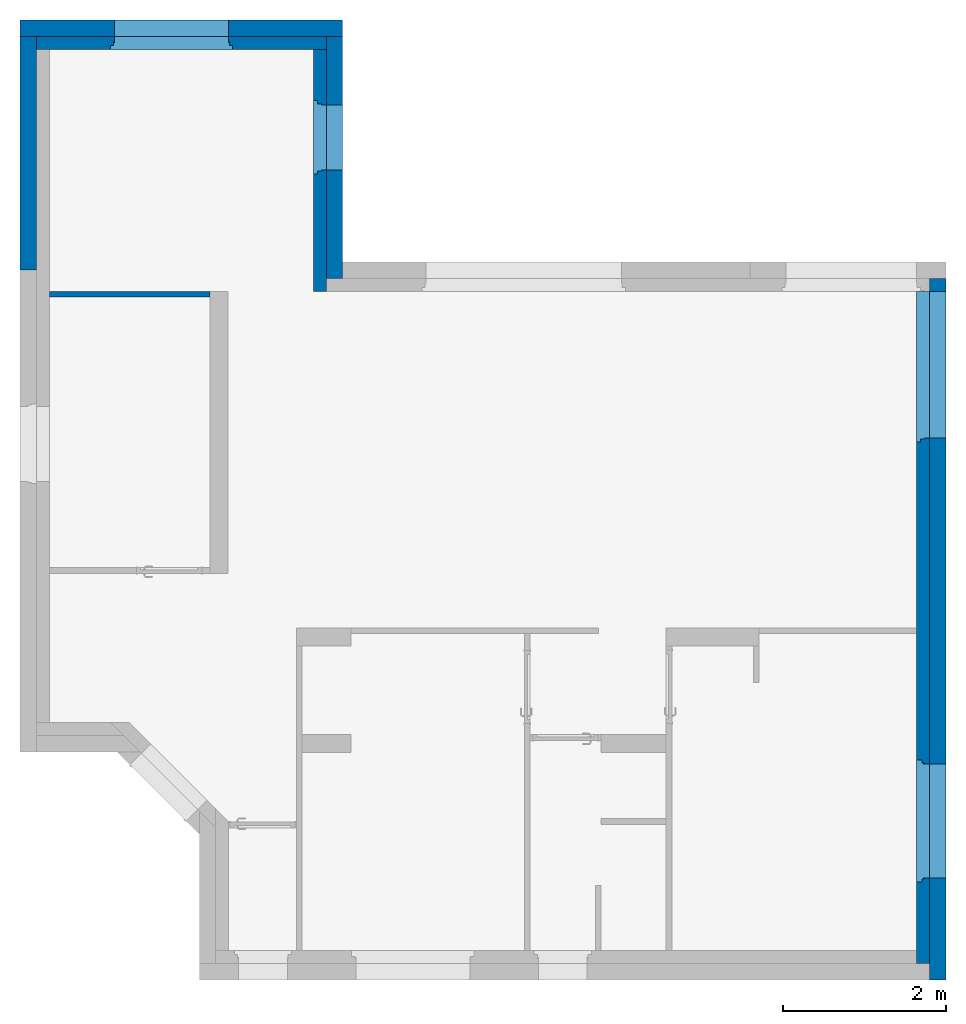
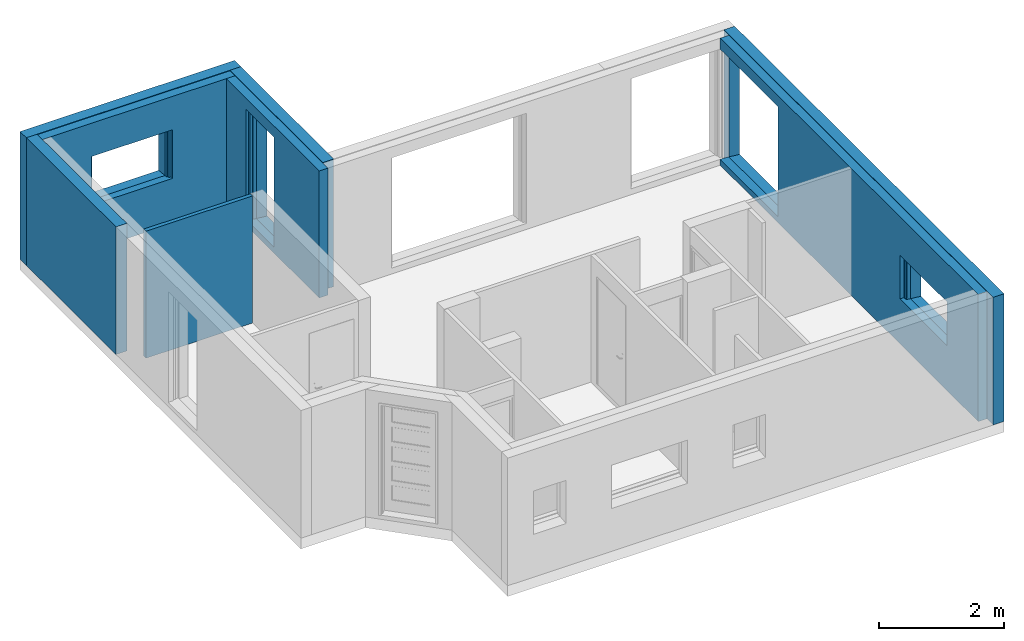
# One storey, part 5 of 8: 8 walls, 9 openings.
"""IFC2X3 building model written with IfcOpenShell, lengths in centimetres."""

from ifc_helpers import new_model, entity, si_unit, converted_unit, derived_unit, direction, frame, frame_2d, origin, place, context, subcontext, project, spatial, polyline, rectangle, extrude, clip, bounded_halfspace, faceted_brep, material, layer, layer_set, layer_usage, type_object, element, save


model = new_model("IFC2X3")

# Units and contexts
model_context = context("Model", 3, precision=0.001, world=origin(), true_north=direction((6.12303176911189e-17, 1.0)))
body_context = subcontext(model_context, "Body", "Model", "MODEL_VIEW")
ifc_project = project(units=[si_unit("LENGTHUNIT", "METRE", prefix="CENTI"), si_unit("AREAUNIT", "SQUARE_METRE"), si_unit("VOLUMEUNIT", "CUBIC_METRE"), converted_unit("PLANEANGLEUNIT", "DEGREE", entity("IfcRatioMeasure", 0.0174532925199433), si_unit("PLANEANGLEUNIT", "RADIAN"), dimensions=[0, 0, 0, 0, 0, 0, 0]), si_unit("MASSUNIT", "GRAM", prefix="KILO"), derived_unit("MASSDENSITYUNIT", [(si_unit("MASSUNIT", "GRAM", prefix="KILO"), 1), (si_unit("LENGTHUNIT", "METRE"), -3)]), derived_unit("MOMENTOFINERTIAUNIT", [(si_unit("LENGTHUNIT", "METRE"), 4)]), si_unit("TIMEUNIT", "SECOND"), si_unit("FREQUENCYUNIT", "HERTZ"), si_unit("THERMODYNAMICTEMPERATUREUNIT", "DEGREE_CELSIUS"), derived_unit("THERMALTRANSMITTANCEUNIT", [(si_unit("MASSUNIT", "GRAM", prefix="KILO"), 1), (si_unit("THERMODYNAMICTEMPERATUREUNIT", "KELVIN"), -1), (si_unit("TIMEUNIT", "SECOND"), -3)]), derived_unit("VOLUMETRICFLOWRATEUNIT", [(si_unit("LENGTHUNIT", "METRE"), 3), (si_unit("TIMEUNIT", "SECOND"), -1)]), si_unit("ELECTRICCURRENTUNIT", "AMPERE"), si_unit("ELECTRICVOLTAGEUNIT", "VOLT"), si_unit("POWERUNIT", "WATT"), si_unit("FORCEUNIT", "NEWTON", prefix="KILO"), si_unit("ILLUMINANCEUNIT", "LUX"), si_unit("LUMINOUSFLUXUNIT", "LUMEN"), si_unit("LUMINOUSINTENSITYUNIT", "CANDELA"), derived_unit("USERDEFINED", [(si_unit("MASSUNIT", "GRAM", prefix="KILO"), -1), (si_unit("LENGTHUNIT", "METRE"), -2), (si_unit("TIMEUNIT", "SECOND"), 3), (si_unit("LUMINOUSFLUXUNIT", "LUMEN"), 1)]), derived_unit("LINEARVELOCITYUNIT", [(si_unit("LENGTHUNIT", "METRE"), 1), (si_unit("TIMEUNIT", "SECOND"), -1)]), si_unit("PRESSUREUNIT", "PASCAL"), derived_unit("USERDEFINED", [(si_unit("LENGTHUNIT", "METRE"), -2), (si_unit("MASSUNIT", "GRAM", prefix="KILO"), 1), (si_unit("TIMEUNIT", "SECOND"), -2)]), derived_unit("LINEARFORCEUNIT", [(si_unit("MASSUNIT", "GRAM", prefix="KILO"), 1), (si_unit("LENGTHUNIT", "METRE"), 1), (si_unit("TIMEUNIT", "SECOND"), -2), (si_unit("LENGTHUNIT", "METRE"), -1)]), derived_unit("PLANARFORCEUNIT", [(si_unit("MASSUNIT", "GRAM", prefix="KILO"), 1), (si_unit("LENGTHUNIT", "METRE"), 1), (si_unit("TIMEUNIT", "SECOND"), -2), (si_unit("LENGTHUNIT", "METRE"), -2)])], contexts=[model_context])

# Site, building, storey
site_placement = place(None, origin())
site = spatial("IfcSite", under=ifc_project, at=site_placement, Name="Surface", CompositionType="ELEMENT")
building_placement = place(site_placement, origin())
building = spatial("IfcBuilding", under=site, at=building_placement, CompositionType="ELEMENT")
storey_placement = place(building_placement, frame((0.0, 0.0, -8.0)))
storey = spatial("IfcBuildingStorey", under=building, at=storey_placement, Name="-0.08_Dessus plancher", CompositionType="ELEMENT", Elevation=-8.0)

# Wall, opening
ifc_material_1 = material(Name="Maçonnerie - Béton")
ifc_layer_1 = layer(ifc_material_1, 20.0)
ifc_layer_set_1 = layer_set([ifc_layer_1], Name="Mur de base:Mur 20")
ifc_layer_usage_1 = layer_usage(ifc_layer_set_1, "AXIS2", "NEGATIVE", 10.0)
wall_type_1 = type_object("IfcWallType", Name="Mur de base:Mur 20", PredefinedType="STANDARD", material=ifc_layer_set_1)
wall_1_placement = place(storey_placement, frame((-1788.17726031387, 1008.99231712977, 0.0)))
wall_1 = element("IfcWallStandardCase", 1, at=wall_1_placement, inside=storey, type_object=wall_type_1, material=ifc_layer_usage_1, Name="Mur de base:Mur 20", ObjectType="Mur de base:Mur 20", context=body_context, shape_type="Clipping", body=[
    clip(extrude(rectangle(XDim=396.0, YDim=19.9999999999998, at=frame_2d((198.0, -6.21724893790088e-15), x_axis=(-1.0, 0.0))), origin(), (0.0, 0.0, 1.0), 249.0), bounded_halfspace(frame((0.0, -10.0, 249.0), z_axis=(0.0, 0.0, -1.0), x_axis=(0.0, -1.0, 0.0)), True, frame((0.0, -10.0, 249.0)), polyline([(0.0, 0.0), (20.0, 0.0), (376.0, 0.0), (396.0, 0.0), (396.0, 20.0), (0.0, 20.0), (0.0, 0.0)]))),
])
opening_1_placement = place(wall_1_placement, frame((111.0, -68.0, 81.2447882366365)))
element("IfcOpeningElement", 2, at=opening_1_placement, cuts=wall_1, Name="Mur de base:Mur 20", ObjectType="Opening", context=body_context, shape_type="Brep", body=[
    faceted_brep([(5.0, 50.0, 6.75521176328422), (5.0, 52.0, 6.75521176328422), (5.0, 52.0, 96.7552117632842), (5.0, 100.0, 96.7552117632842), (5.0, 100.0, 0.0), (5.0, 50.0, 5.25521176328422), (145.0, 0.0, 6.75521176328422), (145.0, 42.0, 6.75521176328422), (145.0, 42.0, 96.7552117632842), (145.0, 0.0, 96.7552117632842), (5.0, 0.0, 6.75521176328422), (5.0, 42.0, 6.75521176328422), (0.0, 42.0, 6.75521176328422), (0.0, 47.0, 6.75521176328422), (4.0, 47.0, 6.75521176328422), (4.0, 52.0, 6.75521176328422), (145.0, 50.0, 6.75521176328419), (145.0, 52.0, 6.75521176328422), (146.0, 52.0, 6.75521176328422), (146.0, 47.0, 6.75521176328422), (150.0, 47.0, 6.75521176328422), (150.0, 42.0, 6.75521176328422), (5.0, 0.0, 96.7552117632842), (145.0, 52.0, 96.7552117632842), (145.0, 100.0, 96.7552117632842), (145.0, 100.0, 0.0), (145.0, 50.0, 5.25521176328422), (0.0, 42.0, 101.755211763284), (0.0, 47.0, 101.755211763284), (150.0, 47.0, 101.755211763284), (146.0, 47.0, 97.7552117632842), (4.0, 47.0, 97.7552117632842), (4.0, 52.0, 97.7552117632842), (146.0, 52.0, 97.7552117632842), (5.0, 42.0, 96.7552117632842), (150.0, 42.0, 101.755211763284)], [[[0, 1, 2, 3, 4, 5]], [[6, 7, 8, 9]], [[10, 11, 12, 13, 14, 15, 1, 0, 16, 17, 18, 19, 20, 21, 7, 6]], [[10, 6, 9, 22]], [[3, 2, 23, 24]], [[3, 24, 25, 4]], [[4, 25, 26, 5]], [[5, 26, 16, 0]], [[12, 27, 28, 13]], [[13, 28, 29, 20, 19, 30, 31, 14]], [[14, 31, 32, 15]], [[15, 32, 33, 18, 17, 23, 2, 1]], [[11, 34, 8, 7, 21, 35, 27, 12]], [[27, 35, 29, 28]], [[30, 33, 32, 31]], [[29, 35, 21, 20]], [[19, 18, 33, 30]], [[9, 8, 34, 22]], [[24, 23, 17, 16, 26, 25]], [[22, 34, 11, 10]]]),
])

ifc_layer_usage_2 = layer_usage(ifc_layer_set_1, "AXIS2", "NEGATIVE", 10.0)
wall_2_placement = place(storey_placement, frame((-1402.17726031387, 998.992317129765, 0.0), z_axis=(0.0, 0.0, 1.0), x_axis=(0.0, -1.0, 0.0)))
wall_2 = element("IfcWallStandardCase", 3, at=wall_2_placement, inside=storey, type_object=wall_type_1, material=ifc_layer_usage_2, Name="Mur de base:Mur 20", ObjectType="Mur de base:Mur 20", context=body_context, shape_type="Clipping", body=[
    clip(extrude(rectangle(XDim=297.0, YDim=20.0000000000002, at=frame_2d((148.5, 0.0), x_axis=(-1.0, 0.0))), origin(), (0.0, 0.0, 1.0), 249.0), bounded_halfspace(frame((0.0, 10.0, 249.0), z_axis=(0.0, 0.0, -1.0), x_axis=(1.0, 0.0, 0.0)), True, frame((0.0, 10.0, 249.0)), polyline([(0.0, 0.0), (0.0, -20.0), (297.0, -20.0), (297.0, 0.0), (277.0, 0.0), (0.0, 0.0)]))),
])
opening_2_placement = place(wall_2_placement, frame((169.0, -68.0, 8.0)))
element("IfcOpeningElement", 4, at=opening_2_placement, cuts=wall_2, Name="Mur de base:Mur 20", ObjectType="Opening", context=body_context, shape_type="Brep", body=[
    faceted_brep([(-85.0, 50.0, 3.50000000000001), (-85.0, 52.0, 3.5), (-85.0, 52.0, 213.5), (-85.0, 100.0, 213.5), (-85.0, 100.0, 0.0), (-85.0, 83.3002755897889, 0.0), (-5.0, 0.0, 3.50000000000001), (-5.0, 42.0, 3.50000000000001), (-5.0, 42.0, 213.5), (-5.0, 0.0, 213.5), (-85.0, 0.0, 3.50000000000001), (-85.0, 42.0, 3.50000000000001), (-90.0, 42.0, 3.50000000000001), (-90.0, 47.0, 3.50000000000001), (-86.0, 47.0, 3.50000000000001), (-86.0, 52.0, 3.50000000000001), (-5.0, 50.0, 3.49999999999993), (-5.0, 52.0, 3.50000000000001), (-4.0, 52.0, 3.50000000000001), (-4.0, 47.0, 3.50000000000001), (0.0, 47.0, 3.50000000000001), (0.0, 42.0, 3.50000000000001), (-85.0, 0.0, 213.5), (-5.0, 52.0, 213.5), (-5.0, 100.0, 213.5), (-5.0, 100.0, 0.0), (-5.0, 83.3002755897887, 0.0), (-90.0, 42.0, 218.5), (-90.0, 47.0, 218.5), (0.0, 47.0, 218.5), (-4.0, 47.0, 214.5), (-86.0, 47.0, 214.5), (-86.0, 52.0, 214.5), (-4.0, 52.0, 214.5), (-85.0, 42.0, 213.5), (0.0, 42.0, 218.5)], [[[0, 1, 2, 3, 4, 5]], [[6, 7, 8, 9]], [[10, 11, 12, 13, 14, 15, 1, 0, 16, 17, 18, 19, 20, 21, 7, 6]], [[10, 6, 9, 22]], [[3, 2, 23, 24]], [[3, 24, 25, 4]], [[4, 25, 26, 5]], [[5, 26, 16, 0]], [[12, 27, 28, 13]], [[13, 28, 29, 20, 19, 30, 31, 14]], [[14, 31, 32, 15]], [[15, 32, 33, 18, 17, 23, 2, 1]], [[11, 34, 8, 7, 21, 35, 27, 12]], [[27, 35, 29, 28]], [[30, 33, 32, 31]], [[29, 35, 21, 20]], [[19, 18, 33, 30]], [[9, 8, 34, 22]], [[24, 23, 17, 16, 26, 25]], [[22, 34, 11, 10]]]),
])

# Wall, openings
ifc_layer_usage_3 = layer_usage(ifc_layer_set_1, "AXIS2", "NEGATIVE", 10.0)
wall_3_placement = place(storey_placement, frame((-662.177260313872, 701.992317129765, 0.0), z_axis=(0.0, 0.0, 1.0), x_axis=(0.0, -1.0, 0.0)))
wall_3 = element("IfcWallStandardCase", 5, at=wall_3_placement, inside=storey, type_object=wall_type_1, material=ifc_layer_usage_3, Name="Mur de base:Mur 20", ObjectType="Mur de base:Mur 20", context=body_context, shape_type="Clipping", body=[
    clip(extrude(rectangle(XDim=861.0, YDim=20.0, at=frame_2d((430.5, -1.95399252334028e-14), x_axis=(-1.0, 0.0))), origin(), (0.0, 0.0, 1.0), 249.0), bounded_halfspace(frame((0.0, -10.0, 249.0), z_axis=(0.0, 0.0, -1.0), x_axis=(1.0, 0.0, 0.0)), True, frame((0.0, -10.0, 249.0)), polyline([(0.0, 0.0), (841.0, 0.0), (861.0, 0.0), (861.0, 20.0), (0.0, 20.0), (0.0, 0.0)]))),
])
opening_3_placement = place(wall_3_placement, frame((201.0, -68.0, 8.0)))
element("IfcOpeningElement", 6, at=opening_3_placement, cuts=wall_3, Name="Mur de base:Mur 20", ObjectType="Opening", context=body_context, shape_type="Brep", body=[
    faceted_brep([(-185.0, 50.0, 3.50000000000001), (-185.0, 52.0, 3.5), (-185.0, 52.0, 213.5), (-185.0, 100.0, 213.5), (-185.0, 100.0, 0.0), (-185.0, 83.300275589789, 0.0), (-5.0, 0.0, 3.50000000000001), (-5.0, 42.0, 3.50000000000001), (-5.0, 42.0, 213.5), (-5.0, 0.0, 213.5), (-185.0, 0.0, 3.50000000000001), (-185.0, 42.0, 3.50000000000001), (-190.0, 42.0, 3.50000000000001), (-190.0, 47.0, 3.50000000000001), (-186.0, 47.0, 3.50000000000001), (-186.0, 52.0, 3.50000000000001), (-5.0, 50.0, 3.49999999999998), (-5.0, 52.0, 3.50000000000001), (-4.0, 52.0, 3.50000000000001), (-4.0, 47.0, 3.50000000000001), (0.0, 47.0, 3.50000000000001), (0.0, 42.0, 3.50000000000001), (-185.0, 0.0, 213.5), (-5.0, 52.0, 213.5), (-5.0, 100.0, 213.5), (-5.0, 100.0, 0.0), (-5.0, 83.3002755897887, 0.0), (-190.0, 42.0, 218.5), (-190.0, 47.0, 218.5), (0.0, 47.0, 218.5), (-4.0, 47.0, 214.5), (-186.0, 47.0, 214.5), (-186.0, 52.0, 214.5), (-4.0, 52.0, 214.5), (-185.0, 42.0, 213.5), (0.0, 42.0, 218.5)], [[[0, 1, 2, 3, 4, 5]], [[6, 7, 8, 9]], [[10, 11, 12, 13, 14, 15, 1, 0, 16, 17, 18, 19, 20, 21, 7, 6]], [[10, 6, 9, 22]], [[3, 2, 23, 24]], [[3, 24, 25, 4]], [[4, 25, 26, 5]], [[5, 26, 16, 0]], [[12, 27, 28, 13]], [[13, 28, 29, 20, 19, 30, 31, 14]], [[14, 31, 32, 15]], [[15, 32, 33, 18, 17, 23, 2, 1]], [[11, 34, 8, 7, 21, 35, 27, 12]], [[27, 35, 29, 28]], [[30, 33, 32, 31]], [[29, 35, 21, 20]], [[19, 18, 33, 30]], [[9, 8, 34, 22]], [[24, 23, 17, 16, 26, 25]], [[22, 34, 11, 10]]]),
])
opening_4_placement = place(wall_3_placement, frame((741.0, -68.0, 81.2447882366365)))
element("IfcOpeningElement", 7, at=opening_4_placement, cuts=wall_3, Name="Mur de base:Mur 20", ObjectType="Opening", context=body_context, shape_type="Brep", body=[
    faceted_brep([(-145.0, 50.0, 6.75521176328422), (-145.0, 52.0, 6.75521176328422), (-145.0, 52.0, 86.7552117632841), (-145.0, 100.0, 86.7552117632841), (-145.0, 100.0, 0.0), (-145.0, 50.0, 5.25521176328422), (-5.0, 0.0, 6.75521176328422), (-5.0, 42.0, 6.75521176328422), (-5.0, 42.0, 86.7552117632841), (-5.0, 0.0, 86.7552117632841), (-145.0, 0.0, 6.75521176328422), (-145.0, 42.0, 6.75521176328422), (-150.0, 42.0, 6.75521176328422), (-150.0, 49.0, 6.75521176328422), (-146.0, 49.0, 6.75521176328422), (-146.0, 52.0, 6.75521176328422), (-5.0, 50.0, 6.75521176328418), (-5.0, 52.0, 6.75521176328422), (-4.0, 52.0, 6.75521176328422), (-4.0, 49.0, 6.75521176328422), (0.0, 49.0, 6.75521176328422), (0.0, 42.0, 6.75521176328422), (-145.0, 0.0, 86.7552117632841), (-5.0, 52.0, 86.7552117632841), (-5.0, 100.0, 86.7552117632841), (-5.0, 100.0, 0.0), (-5.0, 50.0, 5.25521176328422), (-150.0, 42.0, 91.7552117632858), (-150.0, 49.0, 91.7552117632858), (0.0, 49.0, 91.7552117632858), (-4.0, 49.0, 87.7552117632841), (-146.0, 49.0, 87.7552117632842), (-146.0, 52.0, 87.7552117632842), (-4.0, 52.0, 87.7552117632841), (-145.0, 42.0, 86.7552117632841), (0.0, 42.0, 91.7552117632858)], [[[0, 1, 2, 3, 4, 5]], [[6, 7, 8, 9]], [[10, 11, 12, 13, 14, 15, 1, 0, 16, 17, 18, 19, 20, 21, 7, 6]], [[10, 6, 9, 22]], [[3, 2, 23, 24]], [[3, 24, 25, 4]], [[4, 25, 26, 5]], [[5, 26, 16, 0]], [[12, 27, 28, 13]], [[13, 28, 29, 20, 19, 30, 31, 14]], [[14, 31, 32, 15]], [[15, 32, 33, 18, 17, 23, 2, 1]], [[11, 34, 8, 7, 21, 35, 27, 12]], [[27, 35, 29, 28]], [[30, 33, 32, 31]], [[29, 35, 21, 20]], [[19, 18, 33, 30]], [[9, 8, 34, 22]], [[24, 23, 17, 16, 26, 25]], [[22, 34, 11, 10]]]),
])

# Wall, opening
ifc_layer_usage_4 = layer_usage(ifc_layer_set_1, "AXIS2", "POSITIVE", -10.0)
wall_4_placement = place(storey_placement, frame((-1778.17726031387, 998.992317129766, 0.0), z_axis=(0.0, 0.0, 1.0), x_axis=(0.0, -1.0, 0.0)))
wall_4 = element("IfcWallStandardCase", 8, at=wall_4_placement, inside=storey, type_object=wall_type_1, material=ifc_layer_usage_4, Name="Mur de base:Mur 20", ObjectType="Mur de base:Mur 20", context=body_context, shape_type="Clipping", body=[
    clip(extrude(rectangle(XDim=286.999999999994, YDim=19.9999999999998, at=frame_2d((143.499999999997, 0.0), x_axis=(-1.0, 0.0))), origin(), (0.0, 0.0, 1.0), 249.0), bounded_halfspace(frame((0.0, -10.0, 249.0), z_axis=(0.0, 0.0, -1.0), x_axis=(1.0, 0.0, 0.0)), True, frame((0.0, -10.0, 249.0)), polyline([(0.0, 0.0), (287.0, 0.0), (287.0, 20.0), (0.0, 20.0), (0.0, 0.0)]))),
])
opening_5_placement = place(wall_4_placement, frame((549.0, -40.0, 8.0)))
element("IfcOpeningElement", 9, at=opening_5_placement, cuts=wall_4, Name="Mur de base:Mur 20", ObjectType="Opening", context=body_context, shape_type="Brep", body=[
    faceted_brep([(-3.0, 80.0, 216.0), (-95.0, 80.0, 216.0), (-95.0, 50.0, 216.0), (-3.0, 50.0, 216.0), (-3.0, 0.0, 0.0), (-95.0, 0.0, 0.0), (-95.0, 40.0, 0.0), (-96.4999999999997, 40.0, 0.0), (-96.4999999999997, 44.300000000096, 0.0), (-98.0, 44.300000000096, 0.0), (-98.0, 50.0, 0.0), (-95.0, 50.0, 0.0), (-95.0, 80.0, 0.0), (-3.0, 80.0, 0.0), (-3.0, 50.0, 0.0), (0.0, 50.0, 0.0), (0.0, 44.300000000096, 0.0), (-1.49999999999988, 44.300000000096, 0.0), (-1.49999999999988, 40.0, 0.0), (-3.0, 40.0, 0.0), (-3.0, 0.0, 216.0), (-95.0, 0.0, 216.0), (-95.0, 40.0, 216.0), (0.0, 44.300000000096, 219.0), (-98.0, 44.300000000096, 219.0), (-96.4999999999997, 44.300000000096, 217.499999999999), (-1.49999999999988, 44.300000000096, 217.499999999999), (-98.0, 50.0, 219.0), (0.0, 50.0, 219.0), (-96.4999999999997, 40.0, 217.499999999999), (-3.0, 40.0, 216.0), (-1.49999999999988, 40.0, 217.499999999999)], [[[0, 1, 2, 3]], [[4, 5, 6, 7, 8, 9, 10, 11, 12, 13, 14, 15, 16, 17, 18, 19]], [[13, 0, 3, 14]], [[20, 21, 5, 4]], [[5, 21, 22, 6]], [[1, 0, 13, 12]], [[16, 23, 24, 9, 8, 25, 26, 17]], [[11, 10, 27, 28, 15, 14, 3, 2]], [[10, 9, 24, 27]], [[24, 23, 28, 27]], [[23, 16, 15, 28]], [[8, 7, 29, 25]], [[7, 6, 22, 30, 19, 18, 31, 29]], [[25, 29, 31, 26]], [[31, 18, 17, 26]], [[1, 12, 11, 2]], [[20, 4, 19, 30]], [[21, 20, 30, 22]]]),
])

ifc_material_2 = material(Name="Isolant rigide")
ifc_layer_2 = layer(ifc_material_2, 16.0)
ifc_layer_set_2 = layer_set([ifc_layer_2], Name="Mur de base:Doublage 16")
ifc_layer_usage_5 = layer_usage(ifc_layer_set_2, "AXIS2", "POSITIVE", -8.0)
wall_type_2 = type_object("IfcWallType", Name="Mur de base:Doublage 16", PredefinedType="STANDARD", material=ifc_layer_set_2)
wall_5_placement = place(storey_placement, frame((-1768.17726031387, 990.992317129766, 0.0)))
wall_5 = element("IfcWallStandardCase", 10, at=wall_5_placement, inside=storey, type_object=wall_type_2, material=ifc_layer_usage_5, Name="Mur de base:Doublage 16", ObjectType="Mur de base:Doublage 16", context=body_context, shape_type="SweptSolid", body=[
    extrude(rectangle(XDim=355.999999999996, YDim=15.9999999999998, at=frame_2d((177.999999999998, 0.0), x_axis=(-1.0, 0.0))), origin(), (0.0, 0.0, 1.0), 248.0),
])
opening_6_placement = place(wall_5_placement, frame((91.0, -50.0, 81.2447882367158)))
element("IfcOpeningElement", 11, at=opening_6_placement, cuts=wall_5, Name="Mur de base:Doublage 16", ObjectType="Opening", context=body_context, shape_type="Brep", body=[
    faceted_brep([(5.0, 50.0, 6.75521176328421), (5.0, 52.0, 6.75521176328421), (5.0, 52.0, 96.7552117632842), (5.0, 100.0, 96.7552117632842), (5.0, 100.0, 0.0), (5.0, 50.0, 5.25521176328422), (145.0, 0.0, 6.75521176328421), (145.0, 42.0, 6.75521176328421), (145.0, 42.0, 96.7552117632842), (145.0, 0.0, 96.7552117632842), (5.0, 0.0, 6.75521176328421), (5.0, 42.0, 6.75521176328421), (0.0, 42.0, 6.75521176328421), (0.0, 47.0, 6.75521176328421), (4.0, 47.0, 6.75521176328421), (4.0, 52.0, 6.75521176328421), (145.0, 50.0, 6.75521176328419), (145.0, 52.0, 6.75521176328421), (146.0, 52.0, 6.75521176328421), (146.0, 47.0, 6.75521176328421), (150.0, 47.0, 6.75521176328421), (150.0, 42.0, 6.75521176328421), (5.0, 0.0, 96.7552117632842), (145.0, 52.0, 96.7552117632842), (145.0, 100.0, 96.7552117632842), (145.0, 100.0, 0.0), (145.0, 50.0, 5.25521176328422), (0.0, 42.0, 101.755211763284), (0.0, 47.0, 101.755211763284), (150.0, 47.0, 101.755211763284), (146.0, 47.0, 97.7552117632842), (4.0, 47.0, 97.7552117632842), (4.0, 52.0, 97.7552117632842), (146.0, 52.0, 97.7552117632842), (5.0, 42.0, 96.7552117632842), (150.0, 42.0, 101.755211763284)], [[[0, 1, 2, 3, 4, 5]], [[6, 7, 8, 9]], [[10, 11, 12, 13, 14, 15, 1, 0, 16, 17, 18, 19, 20, 21, 7, 6]], [[10, 6, 9, 22]], [[3, 2, 23, 24]], [[3, 24, 25, 4]], [[4, 25, 26, 5]], [[5, 26, 16, 0]], [[12, 27, 28, 13]], [[13, 28, 29, 20, 19, 30, 31, 14]], [[14, 31, 32, 15]], [[15, 32, 33, 18, 17, 23, 2, 1]], [[11, 34, 8, 7, 21, 35, 27, 12]], [[27, 35, 29, 28]], [[30, 33, 32, 31]], [[29, 35, 21, 20]], [[19, 18, 33, 30]], [[9, 8, 34, 22]], [[24, 23, 17, 16, 26, 25]], [[22, 34, 11, 10]]]),
])

ifc_layer_usage_6 = layer_usage(ifc_layer_set_2, "AXIS2", "POSITIVE", -8.0)
wall_6_placement = place(storey_placement, frame((-1420.17726031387, 982.992317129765, 0.0), z_axis=(0.0, 0.0, 1.0), x_axis=(0.0, -1.0, 0.0)))
wall_6 = element("IfcWallStandardCase", 12, at=wall_6_placement, inside=storey, type_object=wall_type_2, material=ifc_layer_usage_6, Name="Mur de base:Doublage 16", ObjectType="Mur de base:Doublage 16", context=body_context, shape_type="SweptSolid", body=[
    extrude(rectangle(XDim=297.0, YDim=15.9999999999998, at=frame_2d((148.5, 0.0), x_axis=(-1.0, 0.0))), origin(), (0.0, 0.0, 1.0), 248.0),
])
opening_7_placement = place(wall_6_placement, frame((153.0, -50.0, 8.0), z_axis=(0.0, 0.0, 1.0), x_axis=(0.0, 1.0, 0.0)))
element("IfcOpeningElement", 13, at=opening_7_placement, cuts=wall_6, Name="Mur de base:Doublage 16", ObjectType="Opening", context=body_context, shape_type="Brep", body=[
    faceted_brep([(50.0, 85.0, 3.50000000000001), (52.0, 85.0, 3.5), (52.0, 85.0, 213.5), (100.0, 85.0, 213.5), (100.0, 85.0, 0.0), (83.3002755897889, 85.0, 0.0), (0.0, 5.0, 3.50000000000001), (42.0, 5.0, 3.50000000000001), (42.0, 5.0, 213.5), (0.0, 5.0, 213.5), (0.0, 85.0, 3.50000000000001), (42.0, 85.0, 3.50000000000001), (42.0, 90.0, 3.50000000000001), (47.0, 90.0, 3.50000000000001), (47.0, 86.0, 3.50000000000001), (52.0, 86.0, 3.50000000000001), (50.0, 5.0, 3.49999999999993), (52.0, 5.0, 3.50000000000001), (52.0, 4.0, 3.50000000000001), (47.0, 4.0, 3.50000000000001), (47.0, 0.0, 3.50000000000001), (42.0, 0.0, 3.50000000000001), (0.0, 85.0, 213.5), (52.0, 5.0, 213.5), (100.0, 5.0, 213.5), (100.0, 5.0, 0.0), (83.3002755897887, 5.0, 0.0), (42.0, 90.0, 218.5), (47.0, 90.0, 218.5), (47.0, 0.0, 218.5), (47.0, 4.0, 214.5), (47.0, 86.0, 214.5), (52.0, 86.0, 214.5), (52.0, 4.0, 214.5), (42.0, 85.0, 213.5), (42.0, 0.0, 218.5)], [[[0, 1, 2, 3, 4, 5]], [[6, 7, 8, 9]], [[10, 11, 12, 13, 14, 15, 1, 0, 16, 17, 18, 19, 20, 21, 7, 6]], [[10, 6, 9, 22]], [[3, 2, 23, 24]], [[3, 24, 25, 4]], [[4, 25, 26, 5]], [[5, 26, 16, 0]], [[12, 27, 28, 13]], [[13, 28, 29, 20, 19, 30, 31, 14]], [[14, 31, 32, 15]], [[15, 32, 33, 18, 17, 23, 2, 1]], [[11, 34, 8, 7, 21, 35, 27, 12]], [[27, 35, 29, 28]], [[30, 33, 32, 31]], [[29, 35, 21, 20]], [[19, 18, 33, 30]], [[9, 8, 34, 22]], [[24, 23, 17, 16, 26, 25]], [[22, 34, 11, 10]]]),
])

# Wall, openings
ifc_layer_usage_7 = layer_usage(ifc_layer_set_2, "AXIS2", "NEGATIVE", 8.0)
wall_7_placement = place(storey_placement, frame((-680.177260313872, 685.992317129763, 0.0), z_axis=(0.0, 0.0, 1.0), x_axis=(0.0, -1.0, 0.0)))
wall_7 = element("IfcWallStandardCase", 14, at=wall_7_placement, inside=storey, type_object=wall_type_2, material=ifc_layer_usage_7, Name="Mur de base:Doublage 16", ObjectType="Mur de base:Doublage 16", context=body_context, shape_type="SweptSolid", body=[
    extrude(rectangle(XDim=824.999999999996, YDim=16.0, at=frame_2d((412.499999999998, 1.33226762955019e-14), x_axis=(-1.0, 0.0))), origin(), (0.0, 0.0, 1.0), 248.0),
])
opening_8_placement = place(wall_7_placement, frame((185.0, -50.0, 8.0), z_axis=(0.0, 0.0, 1.0), x_axis=(0.0, 1.0, 0.0)))
element("IfcOpeningElement", 15, at=opening_8_placement, cuts=wall_7, Name="Mur de base:Doublage 16", ObjectType="Opening", context=body_context, shape_type="Brep", body=[
    faceted_brep([(50.0, 185.0, 3.50000000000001), (52.0, 185.0, 3.5), (52.0, 185.0, 213.5), (100.0, 185.0, 213.5), (100.0, 185.0, 0.0), (83.3002755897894, 185.0, 0.0), (0.0, 5.0, 3.50000000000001), (42.0, 5.0, 3.50000000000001), (42.0, 5.0, 213.5), (0.0, 5.0, 213.5), (0.0, 185.0, 3.50000000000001), (42.0, 185.0, 3.50000000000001), (42.0, 190.0, 3.50000000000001), (47.0, 190.0, 3.50000000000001), (47.0, 186.0, 3.50000000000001), (52.0, 186.0, 3.50000000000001), (50.0, 5.0, 3.49999999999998), (52.0, 5.0, 3.50000000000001), (52.0, 4.0, 3.50000000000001), (47.0, 4.0, 3.50000000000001), (47.0, 0.0, 3.50000000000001), (42.0, 0.0, 3.50000000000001), (0.0, 185.0, 213.5), (52.0, 5.0, 213.5), (100.0, 5.0, 213.5), (100.0, 5.0, 0.0), (83.3002755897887, 5.0, 0.0), (42.0, 190.0, 218.5), (47.0, 190.0, 218.5), (47.0, 0.0, 218.5), (47.0, 4.0, 214.5), (47.0, 186.0, 214.5), (52.0, 186.0, 214.5), (52.0, 4.0, 214.5), (42.0, 185.0, 213.5), (42.0, 0.0, 218.5)], [[[0, 1, 2, 3, 4, 5]], [[6, 7, 8, 9]], [[10, 11, 12, 13, 14, 15, 1, 0, 16, 17, 18, 19, 20, 21, 7, 6]], [[10, 6, 9, 22]], [[3, 2, 23, 24]], [[3, 24, 25, 4]], [[4, 25, 26, 5]], [[5, 26, 16, 0]], [[12, 27, 28, 13]], [[13, 28, 29, 20, 19, 30, 31, 14]], [[14, 31, 32, 15]], [[15, 32, 33, 18, 17, 23, 2, 1]], [[11, 34, 8, 7, 21, 35, 27, 12]], [[27, 35, 29, 28]], [[30, 33, 32, 31]], [[29, 35, 21, 20]], [[19, 18, 33, 30]], [[9, 8, 34, 22]], [[24, 23, 17, 16, 26, 25]], [[22, 34, 11, 10]]]),
])
opening_9_placement = place(wall_7_placement, frame((725.0, -50.0, 81.2447882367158), z_axis=(0.0, 0.0, 1.0), x_axis=(0.0, 1.0, 0.0)))
element("IfcOpeningElement", 16, at=opening_9_placement, cuts=wall_7, Name="Mur de base:Doublage 16", ObjectType="Opening", context=body_context, shape_type="Brep", body=[
    faceted_brep([(50.0, 145.0, 6.75521176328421), (52.0, 145.0, 6.75521176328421), (52.0, 145.0, 86.7552117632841), (100.0, 145.0, 86.7552117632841), (100.0, 145.0, 0.0), (50.0, 145.0, 5.25521176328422), (0.0, 5.0, 6.75521176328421), (42.0, 5.0, 6.75521176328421), (42.0, 5.0, 86.7552117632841), (0.0, 5.0, 86.7552117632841), (0.0, 145.0, 6.75521176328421), (42.0, 145.0, 6.75521176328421), (42.0, 150.0, 6.75521176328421), (49.0, 150.0, 6.75521176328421), (49.0, 146.0, 6.75521176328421), (52.0, 146.0, 6.75521176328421), (50.0, 5.0, 6.75521176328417), (52.0, 5.0, 6.75521176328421), (52.0, 4.0, 6.75521176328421), (49.0, 4.0, 6.75521176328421), (49.0, 0.0, 6.75521176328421), (42.0, 0.0, 6.75521176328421), (0.0, 145.0, 86.7552117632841), (52.0, 5.0, 86.7552117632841), (100.0, 5.0, 86.7552117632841), (100.0, 5.0, 0.0), (50.0, 5.0, 5.25521176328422), (42.0, 150.0, 91.7552117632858), (49.0, 150.0, 91.7552117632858), (49.0, 0.0, 91.7552117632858), (49.0, 4.0, 87.7552117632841), (49.0, 146.0, 87.7552117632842), (52.0, 146.0, 87.7552117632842), (52.0, 4.0, 87.7552117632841), (42.0, 145.0, 86.7552117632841), (42.0, 0.0, 91.7552117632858)], [[[0, 1, 2, 3, 4, 5]], [[6, 7, 8, 9]], [[10, 11, 12, 13, 14, 15, 1, 0, 16, 17, 18, 19, 20, 21, 7, 6]], [[10, 6, 9, 22]], [[3, 2, 23, 24]], [[3, 24, 25, 4]], [[4, 25, 26, 5]], [[5, 26, 16, 0]], [[12, 27, 28, 13]], [[13, 28, 29, 20, 19, 30, 31, 14]], [[14, 31, 32, 15]], [[15, 32, 33, 18, 17, 23, 2, 1]], [[11, 34, 8, 7, 21, 35, 27, 12]], [[27, 35, 29, 28]], [[30, 33, 32, 31]], [[29, 35, 21, 20]], [[19, 18, 33, 30]], [[9, 8, 34, 22]], [[24, 23, 17, 16, 26, 25]], [[22, 34, 11, 10]]]),
])

# Wall
ifc_material_3 = material(Name="Mur par défaut")
ifc_layer_3 = layer(ifc_material_3, 7.0)
ifc_layer_set_3 = layer_set([ifc_layer_3], Name="Mur de base:Cloison 7cm")
ifc_layer_usage_8 = layer_usage(ifc_layer_set_3, "AXIS2", "POSITIVE", -3.5)
wall_type_3 = type_object("IfcWallType", Name="Mur de base:Cloison 7cm", PredefinedType="STANDARD", material=ifc_layer_set_3)
wall_8_placement = place(storey_placement, frame((-1555.17726031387, 682.492317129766, 0.0), z_axis=(0.0, 0.0, 1.0), x_axis=(-1.0, 0.0, 0.0)))
element("IfcWallStandardCase", 17, at=wall_8_placement, inside=storey, type_object=wall_type_3, material=ifc_layer_usage_8, Name="Mur de base:Cloison 7cm", ObjectType="Mur de base:Cloison 7cm", context=body_context, shape_type="SweptSolid", body=[
    extrude(rectangle(XDim=196.999999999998, YDim=6.99999999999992, at=frame_2d((98.499999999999, -2.30926389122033e-14), x_axis=(-1.0, 0.0))), origin(), (0.0, 0.0, 1.0), 248.0),
])

save(model, "model.ifc")
